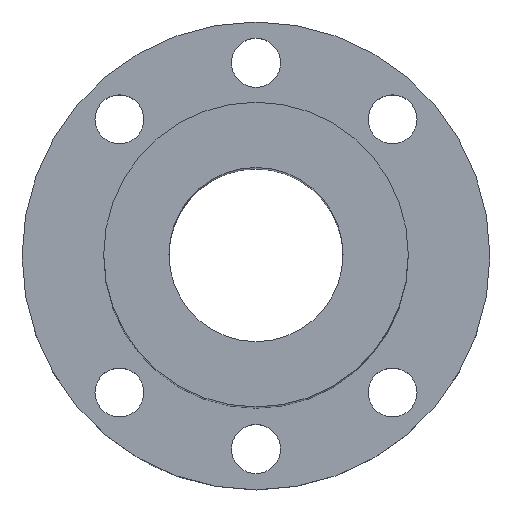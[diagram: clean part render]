
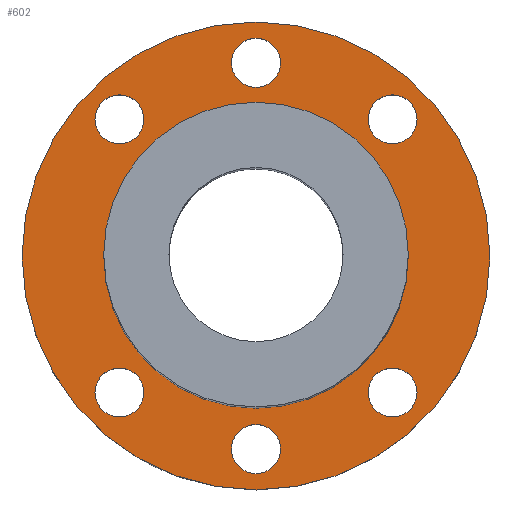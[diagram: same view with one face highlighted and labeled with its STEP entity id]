
A CAD part, top view. The second image highlights one B-rep face of the part: STEP entity #602.
In plain terms, the highlighted planar face has unit normal (0, 0, 1).
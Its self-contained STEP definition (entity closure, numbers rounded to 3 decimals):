
#101=CARTESIAN_POINT('',(0.,0.,14.));
#102=DIRECTION('',(0.,0.,1.));
#103=DIRECTION('',(1.,0.,0.));
#104=AXIS2_PLACEMENT_3D('',#101,#102,#103);
#106=CARTESIAN_POINT('',(0.,0.,14.));
#107=DIRECTION('',(0.,0.,1.));
#108=DIRECTION('',(-1.,0.,0.));
#109=AXIS2_PLACEMENT_3D('',#106,#107,#108);
#111=CARTESIAN_POINT('',(25.102,-25.102,14.));
#112=DIRECTION('',(0.,0.,-1.));
#113=DIRECTION('',(-1.,0.,0.));
#114=AXIS2_PLACEMENT_3D('',#111,#112,#113);
#116=CARTESIAN_POINT('',(25.102,-25.102,14.));
#117=DIRECTION('',(0.,0.,-1.));
#118=DIRECTION('',(1.,0.,0.));
#119=AXIS2_PLACEMENT_3D('',#116,#117,#118);
#121=CARTESIAN_POINT('',(0.,0.,14.));
#122=DIRECTION('',(0.,0.,-1.));
#123=DIRECTION('',(1.,0.,0.));
#124=AXIS2_PLACEMENT_3D('',#121,#122,#123);
#126=CARTESIAN_POINT('',(0.,0.,14.));
#127=DIRECTION('',(0.,0.,-1.));
#128=DIRECTION('',(-1.,0.,0.));
#129=AXIS2_PLACEMENT_3D('',#126,#127,#128);
#131=CARTESIAN_POINT('',(0.,-35.5,14.));
#132=DIRECTION('',(0.,0.,-1.));
#133=DIRECTION('',(1.,0.,0.));
#134=AXIS2_PLACEMENT_3D('',#131,#132,#133);
#136=CARTESIAN_POINT('',(0.,-35.5,14.));
#137=DIRECTION('',(0.,0.,-1.));
#138=DIRECTION('',(-1.,0.,0.));
#139=AXIS2_PLACEMENT_3D('',#136,#137,#138);
#141=CARTESIAN_POINT('',(-25.102,25.102,14.));
#142=DIRECTION('',(0.,0.,-1.));
#143=DIRECTION('',(1.,0.,0.));
#144=AXIS2_PLACEMENT_3D('',#141,#142,#143);
#146=CARTESIAN_POINT('',(-25.102,25.102,14.));
#147=DIRECTION('',(0.,0.,-1.));
#148=DIRECTION('',(-1.,0.,0.));
#149=AXIS2_PLACEMENT_3D('',#146,#147,#148);
#151=CARTESIAN_POINT('',(0.,35.5,14.));
#152=DIRECTION('',(0.,0.,-1.));
#153=DIRECTION('',(1.,0.,0.));
#154=AXIS2_PLACEMENT_3D('',#151,#152,#153);
#156=CARTESIAN_POINT('',(0.,35.5,14.));
#157=DIRECTION('',(0.,0.,-1.));
#158=DIRECTION('',(-1.,0.,0.));
#159=AXIS2_PLACEMENT_3D('',#156,#157,#158);
#161=CARTESIAN_POINT('',(25.102,25.102,14.));
#162=DIRECTION('',(0.,0.,-1.));
#163=DIRECTION('',(-1.,0.,0.));
#164=AXIS2_PLACEMENT_3D('',#161,#162,#163);
#166=CARTESIAN_POINT('',(25.102,25.102,14.));
#167=DIRECTION('',(0.,0.,-1.));
#168=DIRECTION('',(1.,0.,0.));
#169=AXIS2_PLACEMENT_3D('',#166,#167,#168);
#171=CARTESIAN_POINT('',(-25.102,-25.102,14.));
#172=DIRECTION('',(0.,0.,-1.));
#173=DIRECTION('',(1.,0.,0.));
#174=AXIS2_PLACEMENT_3D('',#171,#172,#173);
#176=CARTESIAN_POINT('',(-25.102,-25.102,14.));
#177=DIRECTION('',(0.,0.,-1.));
#178=DIRECTION('',(-1.,0.,0.));
#179=AXIS2_PLACEMENT_3D('',#176,#177,#178);
#347=CARTESIAN_POINT('',(43.,0.,14.));
#349=VERTEX_POINT('',#347);
#351=CARTESIAN_POINT('',(-43.,0.,14.));
#353=VERTEX_POINT('',#351);
#355=CARTESIAN_POINT('',(-28.,0.,14.));
#356=CARTESIAN_POINT('',(28.,0.,14.));
#357=VERTEX_POINT('',#355);
#358=VERTEX_POINT('',#356);
#363=CARTESIAN_POINT('',(29.602,25.102,14.));
#365=VERTEX_POINT('',#363);
#367=CARTESIAN_POINT('',(20.602,25.102,14.));
#369=VERTEX_POINT('',#367);
#371=CARTESIAN_POINT('',(4.5,35.5,14.));
#373=VERTEX_POINT('',#371);
#375=CARTESIAN_POINT('',(-4.5,35.5,14.));
#377=VERTEX_POINT('',#375);
#379=CARTESIAN_POINT('',(-20.602,25.102,14.));
#381=VERTEX_POINT('',#379);
#383=CARTESIAN_POINT('',(-29.602,25.102,14.));
#385=VERTEX_POINT('',#383);
#387=CARTESIAN_POINT('',(4.5,-35.5,14.));
#389=VERTEX_POINT('',#387);
#391=CARTESIAN_POINT('',(-4.5,-35.5,14.));
#393=VERTEX_POINT('',#391);
#395=CARTESIAN_POINT('',(29.602,-25.102,14.));
#397=VERTEX_POINT('',#395);
#399=CARTESIAN_POINT('',(20.602,-25.102,14.));
#401=VERTEX_POINT('',#399);
#403=CARTESIAN_POINT('',(-20.602,-25.102,14.));
#405=VERTEX_POINT('',#403);
#407=CARTESIAN_POINT('',(-29.602,-25.102,14.));
#409=VERTEX_POINT('',#407);
#551=CARTESIAN_POINT('',(12.551,-12.551,14.));
#552=DIRECTION('',(0.,0.,1.));
#553=DIRECTION('',(1.,0.,0.));
#554=AXIS2_PLACEMENT_3D('',#551,#552,#553);
#555=PLANE('',#554);
#556=ORIENTED_EDGE('',*,*,#444,.F.);
#558=ORIENTED_EDGE('',*,*,#557,.F.);
#559=EDGE_LOOP('',(#556,#558));
#560=FACE_OUTER_BOUND('',#559,.F.);
#562=ORIENTED_EDGE('',*,*,#561,.F.);
#564=ORIENTED_EDGE('',*,*,#563,.F.);
#565=EDGE_LOOP('',(#562,#564));
#566=FACE_BOUND('',#565,.F.);
#568=ORIENTED_EDGE('',*,*,#567,.F.);
#569=ORIENTED_EDGE('',*,*,#541,.F.);
#570=EDGE_LOOP('',(#568,#569));
#571=FACE_BOUND('',#570,.F.);
#573=ORIENTED_EDGE('',*,*,#572,.F.);
#575=ORIENTED_EDGE('',*,*,#574,.F.);
#576=EDGE_LOOP('',(#573,#575));
#577=FACE_BOUND('',#576,.F.);
#579=ORIENTED_EDGE('',*,*,#578,.F.);
#581=ORIENTED_EDGE('',*,*,#580,.F.);
#582=EDGE_LOOP('',(#579,#581));
#583=FACE_BOUND('',#582,.F.);
#585=ORIENTED_EDGE('',*,*,#584,.F.);
#587=ORIENTED_EDGE('',*,*,#586,.F.);
#588=EDGE_LOOP('',(#585,#587));
#589=FACE_BOUND('',#588,.F.);
#591=ORIENTED_EDGE('',*,*,#590,.F.);
#593=ORIENTED_EDGE('',*,*,#592,.F.);
#594=EDGE_LOOP('',(#591,#593));
#595=FACE_BOUND('',#594,.F.);
#597=ORIENTED_EDGE('',*,*,#596,.F.);
#599=ORIENTED_EDGE('',*,*,#598,.F.);
#600=EDGE_LOOP('',(#597,#599));
#601=FACE_BOUND('',#600,.F.);
#602=ADVANCED_FACE('',(#560,#566,#571,#577,#583,#589,#595,#601),#555,.T.);
#105=CIRCLE('',#104,43.);
#110=CIRCLE('',#109,43.);
#115=CIRCLE('',#114,4.5);
#120=CIRCLE('',#119,4.5);
#125=CIRCLE('',#124,28.);
#130=CIRCLE('',#129,28.);
#135=CIRCLE('',#134,4.5);
#140=CIRCLE('',#139,4.5);
#145=CIRCLE('',#144,4.5);
#150=CIRCLE('',#149,4.5);
#155=CIRCLE('',#154,4.5);
#160=CIRCLE('',#159,4.5);
#165=CIRCLE('',#164,4.5);
#170=CIRCLE('',#169,4.5);
#175=CIRCLE('',#174,4.5);
#180=CIRCLE('',#179,4.5);
#444=EDGE_CURVE('',#349,#353,#105,.T.);
#541=EDGE_CURVE('',#357,#358,#130,.T.);
#557=EDGE_CURVE('',#353,#349,#110,.T.);
#561=EDGE_CURVE('',#401,#397,#115,.T.);
#563=EDGE_CURVE('',#397,#401,#120,.T.);
#567=EDGE_CURVE('',#358,#357,#125,.T.);
#572=EDGE_CURVE('',#389,#393,#135,.T.);
#574=EDGE_CURVE('',#393,#389,#140,.T.);
#578=EDGE_CURVE('',#381,#385,#145,.T.);
#580=EDGE_CURVE('',#385,#381,#150,.T.);
#584=EDGE_CURVE('',#373,#377,#155,.T.);
#586=EDGE_CURVE('',#377,#373,#160,.T.);
#590=EDGE_CURVE('',#369,#365,#165,.T.);
#592=EDGE_CURVE('',#365,#369,#170,.T.);
#596=EDGE_CURVE('',#405,#409,#175,.T.);
#598=EDGE_CURVE('',#409,#405,#180,.T.);
